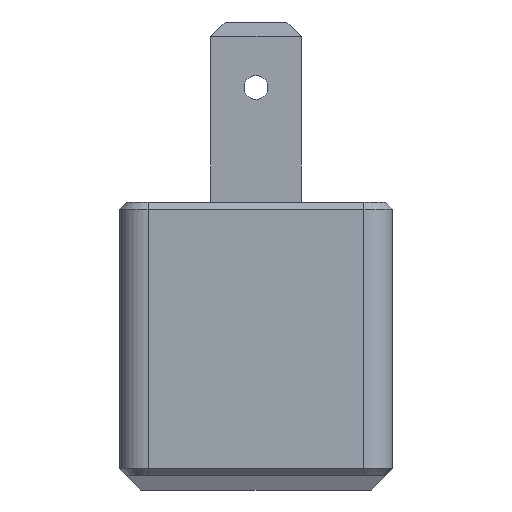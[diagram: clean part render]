
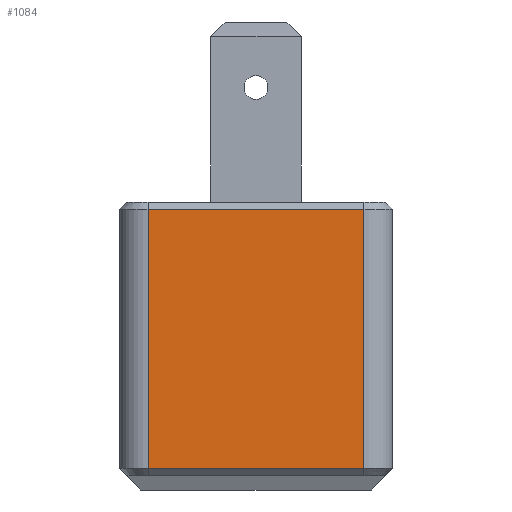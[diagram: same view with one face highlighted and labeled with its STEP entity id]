
A CAD part, left-side view. The second image highlights one B-rep face of the part: STEP entity #1084.
In plain terms, the highlighted planar face has unit normal (-1, 0, 0).
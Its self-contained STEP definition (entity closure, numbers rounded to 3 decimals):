
#98=FACE_OUTER_BOUND('',#167,.T.);
#167=EDGE_LOOP('',(#826,#827,#828,#829));
#258=LINE('',#1671,#380);
#266=LINE('',#1695,#388);
#268=LINE('',#1703,#390);
#270=LINE('',#1706,#392);
#380=VECTOR('',#1353,10.);
#388=VECTOR('',#1375,10.);
#390=VECTOR('',#1385,10.);
#392=VECTOR('',#1389,10.);
#489=VERTEX_POINT('',#1662);
#492=VERTEX_POINT('',#1670);
#499=VERTEX_POINT('',#1687);
#501=VERTEX_POINT('',#1693);
#604=EDGE_CURVE('',#492,#489,#258,.T.);
#616=EDGE_CURVE('',#499,#501,#266,.T.);
#620=EDGE_CURVE('',#501,#492,#268,.T.);
#622=EDGE_CURVE('',#489,#499,#270,.T.);
#826=ORIENTED_EDGE('',*,*,#604,.T.);
#827=ORIENTED_EDGE('',*,*,#622,.T.);
#828=ORIENTED_EDGE('',*,*,#616,.T.);
#829=ORIENTED_EDGE('',*,*,#620,.T.);
#1010=PLANE('',#1177);
#1084=ADVANCED_FACE('',(#98),#1010,.F.);
#1177=AXIS2_PLACEMENT_3D('',#1705,#1387,#1388);
#1353=DIRECTION('',(0.,1.,0.));
#1375=DIRECTION('',(0.,-1.,0.));
#1385=DIRECTION('',(0.,0.,1.));
#1387=DIRECTION('center_axis',(1.,0.,0.));
#1388=DIRECTION('ref_axis',(0.,1.,0.));
#1389=DIRECTION('',(0.,0.,-1.));
#1662=CARTESIAN_POINT('',(-45.,7.5,19.5));
#1670=CARTESIAN_POINT('',(-45.,-7.5,19.5));
#1671=CARTESIAN_POINT('',(-45.,-4.75,19.5));
#1687=CARTESIAN_POINT('',(-45.,7.5,1.5));
#1693=CARTESIAN_POINT('',(-45.,-7.5,1.5));
#1695=CARTESIAN_POINT('',(-45.,-4.75,1.5));
#1703=CARTESIAN_POINT('',(-45.,-7.5,0.));
#1705=CARTESIAN_POINT('Origin',(-45.,-9.5,0.));
#1706=CARTESIAN_POINT('',(-45.,7.5,0.));
